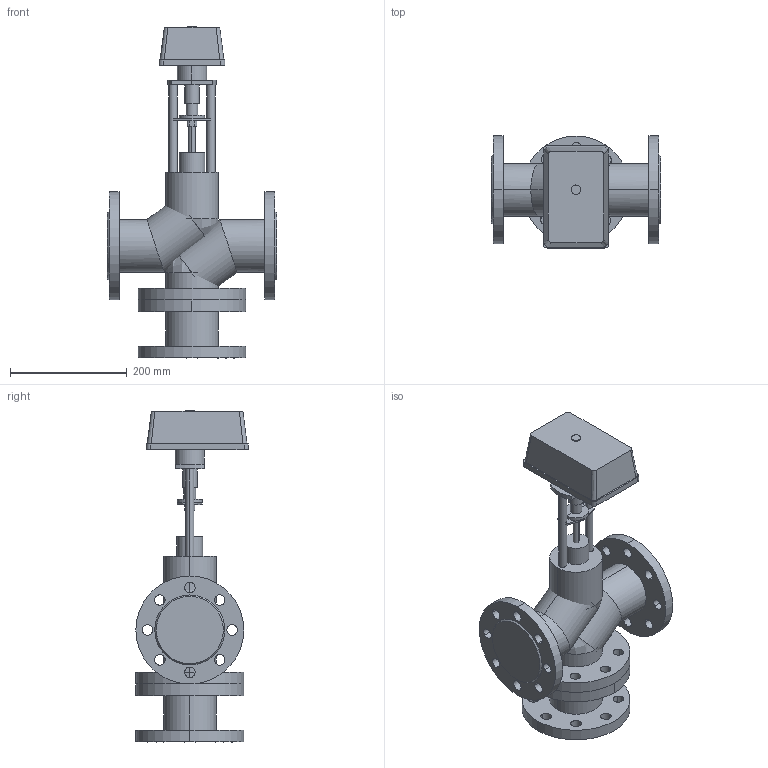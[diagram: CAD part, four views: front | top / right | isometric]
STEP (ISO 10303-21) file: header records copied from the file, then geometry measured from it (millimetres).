
FILE_DESCRIPTION(/* description */ (''),/* implementation_level */ '2;1');
FILE_NAME(/* name */ 'ТРК DN65 PN 2.5 МПа МИЭП-1 2700',/* time_stamp */ '2026-07-14T23:29:53+03:00',/* author */ (''),/* organization */ (''),/* preprocessor_version */ 'ST-DEVELOPER v20',/* originating_system */ '',/* authorisation */ '');
FILE_SCHEMA (('AP242_MANAGED_MODEL_BASED_3D_ENGINEERING_MIM_LF { 1 0 10303 442 1 1 4 }'));
Length unit declared in the file: millimetre
Products named in the file (17): TopLevelAssembly; Выдавливание; Модификатор; Модификатор_1; Выдавливание_
1; Выдавливание_
2; Вращение; Выдавливание_
3; Выдавливание_
4; Выдавливание_
5; Выдавливание_
6; Выдавливание_
7; 2700; Переход; Объемная геометрия 
присоединена; Полый Выдавливание; Объемная геометрия 
присоединена_1
Assembly tree (16 placements, depth 2):
  TopLevelAssembly
    Выдавливание
    Модификатор
    Модификатор_1
    Выдавливание_
1
    Выдавливание_
2
    Вращение
    Выдавливание_
3
    Выдавливание_
4
    Выдавливание_
5
    Выдавливание_
6
    Выдавливание_
7
    2700
    Переход
    Объемная геометрия 
присоединена
    Полый Выдавливание
    Объемная геометрия 
присоединена_1
Bounding box: 290 x 192.5 x 569 mm (x, y, z)
Volume: 7603157.8 mm3; surface area: 836986.6 mm2
Topology: 26 solids, 26 shells, 243 faces, 555 edges, 358 vertices
Faces by surface type: cylinder 146, plane 85, bspline 8, cone 4
Entity records: 7837 total; most frequent: DIRECTION 1395, CARTESIAN_POINT 1369, ORIENTED_EDGE 1094, AXIS2_PLACEMENT_3D 580, EDGE_CURVE 547, VERTEX_POINT 358, EDGE_LOOP 333, CIRCLE 304
